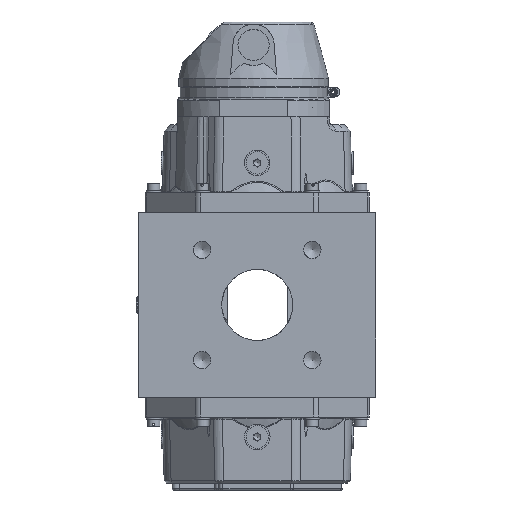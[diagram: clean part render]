
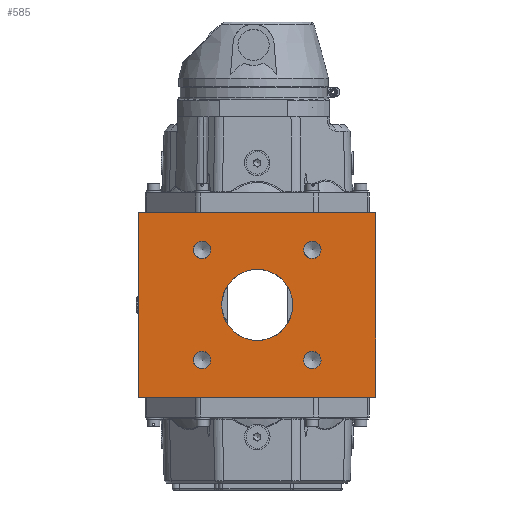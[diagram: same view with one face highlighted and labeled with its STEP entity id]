
A CAD part, left-side view. The second image highlights one B-rep face of the part: STEP entity #585.
In plain terms, the highlighted planar face has unit normal (-1, 0, 0).
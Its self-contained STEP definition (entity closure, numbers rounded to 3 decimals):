
#585=ADVANCED_FACE('',(#8668,#8670,#8672,#8674,#8676,#8678),#8680,.F.);
#8668=FACE_BOUND('',#8669,.T.);
#8669=EDGE_LOOP('',(#21891,#21892,#21893,#21894));
#8670=FACE_BOUND('',#8671,.T.);
#8671=EDGE_LOOP('',(#21895));
#8672=FACE_BOUND('',#8673,.T.);
#8673=EDGE_LOOP('',(#21896));
#8674=FACE_BOUND('',#8675,.T.);
#8675=EDGE_LOOP('',(#21897));
#8676=FACE_BOUND('',#8677,.T.);
#8677=EDGE_LOOP('',(#21898));
#8678=FACE_BOUND('',#8679,.T.);
#8679=EDGE_LOOP('',(#21899));
#8680=PLANE('',#8681);
#8681=AXIS2_PLACEMENT_3D('',#8682,#8683,#8684);
#8682=CARTESIAN_POINT('',(-85.5,95.,73.9));
#8683=DIRECTION('',(1.,0.,0.));
#8684=DIRECTION('',(0.,0.,-1.));
#21891=ORIENTED_EDGE('',*,*,#27932,.T.);
#21892=ORIENTED_EDGE('',*,*,#27933,.F.);
#21893=ORIENTED_EDGE('',*,*,#27605,.F.);
#21894=ORIENTED_EDGE('',*,*,#27931,.T.);
#21895=ORIENTED_EDGE('',*,*,#27934,.F.);
#21896=ORIENTED_EDGE('',*,*,#27935,.F.);
#21897=ORIENTED_EDGE('',*,*,#27936,.F.);
#21898=ORIENTED_EDGE('',*,*,#27937,.F.);
#21899=ORIENTED_EDGE('',*,*,#27938,.T.);
#27605=EDGE_CURVE('',#31969,#31971,#31972,.T.);
#27931=EDGE_CURVE('',#31969,#32494,#32496,.T.);
#27932=EDGE_CURVE('',#32494,#32497,#32498,.T.);
#27933=EDGE_CURVE('',#31971,#32497,#32499,.T.);
#27934=EDGE_CURVE('',#32500,#32500,#32501,.T.);
#27935=EDGE_CURVE('',#32502,#32502,#32503,.T.);
#27936=EDGE_CURVE('',#32504,#32504,#32505,.T.);
#27937=EDGE_CURVE('',#32506,#32506,#32507,.T.);
#27938=EDGE_CURVE('',#32508,#32508,#32509,.T.);
#31969=VERTEX_POINT('',#47560);
#31971=VERTEX_POINT('',#47564);
#31972=LINE('',#47565,#47566);
#32494=VERTEX_POINT('',#50552);
#32496=LINE('',#50556,#50557);
#32497=VERTEX_POINT('',#50559);
#32498=LINE('',#50560,#50561);
#32499=LINE('',#50563,#50564);
#32500=VERTEX_POINT('',#50566);
#32501=CIRCLE('',#50567,7.);
#32502=VERTEX_POINT('',#50571);
#32503=CIRCLE('',#50572,7.);
#32504=VERTEX_POINT('',#50576);
#32505=CIRCLE('',#50577,7.);
#32506=VERTEX_POINT('',#50581);
#32507=CIRCLE('',#50582,7.);
#32508=VERTEX_POINT('',#50586);
#32509=CIRCLE('',#50587,28.5);
#47560=CARTESIAN_POINT('',(-85.5,95.,73.9));
#47564=CARTESIAN_POINT('',(-85.5,-95.,73.9));
#47565=CARTESIAN_POINT('',(-85.5,95.,73.9));
#47566=VECTOR('',#47567,1.);
#47567=DIRECTION('',(0.,-1.,0.));
#50552=CARTESIAN_POINT('',(-85.5,95.,-73.9));
#50556=CARTESIAN_POINT('',(-85.5,95.,73.9));
#50557=VECTOR('',#50558,1.);
#50558=DIRECTION('',(0.,0.,-1.));
#50559=CARTESIAN_POINT('',(-85.5,-95.,-73.9));
#50560=CARTESIAN_POINT('',(-85.5,95.,-73.9));
#50561=VECTOR('',#50562,1.);
#50562=DIRECTION('',(0.,-1.,0.));
#50563=CARTESIAN_POINT('',(-85.5,-95.,73.9));
#50564=VECTOR('',#50565,1.);
#50565=DIRECTION('',(0.,0.,-1.));
#50566=CARTESIAN_POINT('',(-85.5,44.194,-37.194));
#50567=AXIS2_PLACEMENT_3D('',#50568,#50569,#50570);
#50568=CARTESIAN_POINT('',(-85.5,44.194,-44.194));
#50569=DIRECTION('',(-1.,0.,0.));
#50570=DIRECTION('',(0.,0.,-1.));
#50571=CARTESIAN_POINT('',(-85.5,44.194,51.194));
#50572=AXIS2_PLACEMENT_3D('',#50573,#50574,#50575);
#50573=CARTESIAN_POINT('',(-85.5,44.194,44.194));
#50574=DIRECTION('',(-1.,0.,0.));
#50575=DIRECTION('',(0.,0.,-1.));
#50576=CARTESIAN_POINT('',(-85.5,-44.194,51.194));
#50577=AXIS2_PLACEMENT_3D('',#50578,#50579,#50580);
#50578=CARTESIAN_POINT('',(-85.5,-44.194,44.194));
#50579=DIRECTION('',(-1.,0.,0.));
#50580=DIRECTION('',(0.,0.,-1.));
#50581=CARTESIAN_POINT('',(-85.5,-44.194,-37.194));
#50582=AXIS2_PLACEMENT_3D('',#50583,#50584,#50585);
#50583=CARTESIAN_POINT('',(-85.5,-44.194,-44.194));
#50584=DIRECTION('',(-1.,0.,0.));
#50585=DIRECTION('',(0.,0.,-1.));
#50586=CARTESIAN_POINT('',(-85.5,0.,28.5));
#50587=AXIS2_PLACEMENT_3D('',#50588,#50589,#50590);
#50588=CARTESIAN_POINT('',(-85.5,0.,0.));
#50589=DIRECTION('',(1.,0.,0.));
#50590=DIRECTION('',(0.,0.,1.));
